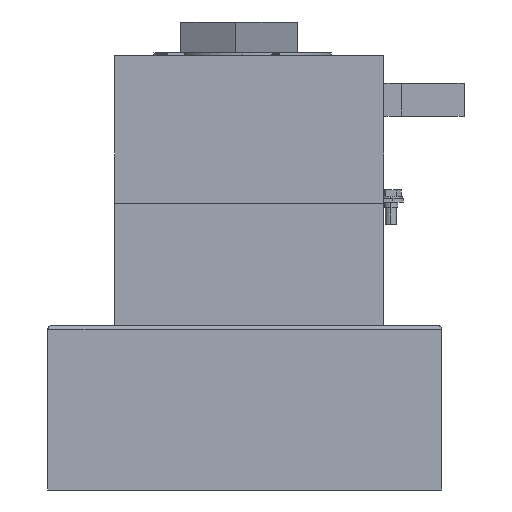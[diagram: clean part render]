
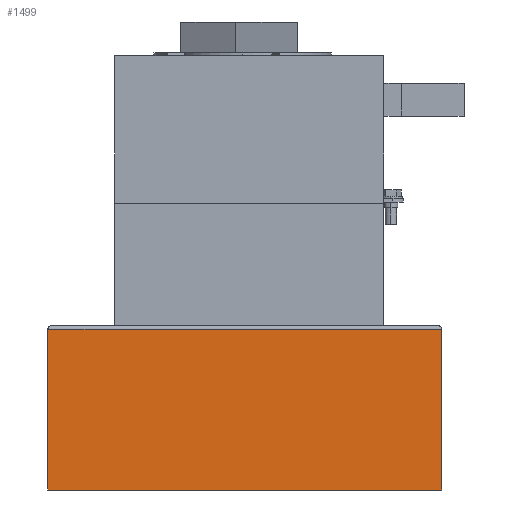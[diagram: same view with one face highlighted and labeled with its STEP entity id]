
A CAD part, left-side view. The second image highlights one B-rep face of the part: STEP entity #1499.
In plain terms, the highlighted planar face has unit normal (-1, 0, 0).
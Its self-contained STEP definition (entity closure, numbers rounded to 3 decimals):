
#109 = DIRECTION ( 'NONE',  ( 0., 1., 0. ) ) ;
#1041 = CARTESIAN_POINT ( 'NONE',  ( -56.25, 87.5, 0. ) ) ;
#1252 = EDGE_CURVE ( 'NONE', #9220, #1542, #4518, .T. ) ;
#1388 = ORIENTED_EDGE ( 'NONE', *, *, #1252, .T. ) ;
#1499 = ADVANCED_FACE ( 'NONE', ( #5284 ), #12443, .F. ) ;
#1542 = VERTEX_POINT ( 'NONE', #1041 ) ;
#2057 = DIRECTION ( 'NONE',  ( 1., 0., 0. ) ) ;
#3313 = ORIENTED_EDGE ( 'NONE', *, *, #11677, .T. ) ;
#3750 = DIRECTION ( 'NONE',  ( 0., 0., -1. ) ) ;
#3917 = CARTESIAN_POINT ( 'NONE',  ( -56.25, -87.5, 0. ) ) ;
#4128 = EDGE_LOOP ( 'NONE', ( #8169, #3313, #1388, #10573 ) ) ;
#4518 = LINE ( 'NONE', #5097, #6187 ) ;
#4898 = VERTEX_POINT ( 'NONE', #3917 ) ;
#5097 = CARTESIAN_POINT ( 'NONE',  ( -56.25, 87.5, 73. ) ) ;
#5284 = FACE_OUTER_BOUND ( 'NONE', #4128, .T. ) ;
#5335 = DIRECTION ( 'NONE',  ( 0., -1., 0. ) ) ;
#5403 = CARTESIAN_POINT ( 'NONE',  ( -56.25, 87.5, 0. ) ) ;
#5546 = CARTESIAN_POINT ( 'NONE',  ( -56.25, -87.5, 73. ) ) ;
#5679 = LINE ( 'NONE', #5546, #9786 ) ;
#5740 = VERTEX_POINT ( 'NONE', #11829 ) ;
#5842 = VECTOR ( 'NONE', #10751, 1000. ) ;
#6187 = VECTOR ( 'NONE', #6958, 1000. ) ;
#6418 = CARTESIAN_POINT ( 'NONE',  ( -56.25, 87.5, 71.5 ) ) ;
#6425 = AXIS2_PLACEMENT_3D ( 'NONE', #6828, #2057, #109 ) ;
#6828 = CARTESIAN_POINT ( 'NONE',  ( -56.25, 87.5, 73. ) ) ;
#6958 = DIRECTION ( 'NONE',  ( 0., 0., -1. ) ) ;
#7819 = CARTESIAN_POINT ( 'NONE',  ( -56.25, 87.5, 71.5 ) ) ;
#8169 = ORIENTED_EDGE ( 'NONE', *, *, #11587, .F. ) ;
#9067 = EDGE_CURVE ( 'NONE', #1542, #4898, #11139, .T. ) ;
#9220 = VERTEX_POINT ( 'NONE', #6418 ) ;
#9786 = VECTOR ( 'NONE', #3750, 1000. ) ;
#10573 = ORIENTED_EDGE ( 'NONE', *, *, #9067, .T. ) ;
#10751 = DIRECTION ( 'NONE',  ( 0., 1., 0. ) ) ;
#11139 = LINE ( 'NONE', #5403, #11150 ) ;
#11150 = VECTOR ( 'NONE', #5335, 1000. ) ;
#11298 = LINE ( 'NONE', #7819, #5842 ) ;
#11587 = EDGE_CURVE ( 'NONE', #5740, #4898, #5679, .T. ) ;
#11677 = EDGE_CURVE ( 'NONE', #5740, #9220, #11298, .T. ) ;
#11829 = CARTESIAN_POINT ( 'NONE',  ( -56.25, -87.5, 71.5 ) ) ;
#12443 = PLANE ( 'NONE',  #6425 ) ;
